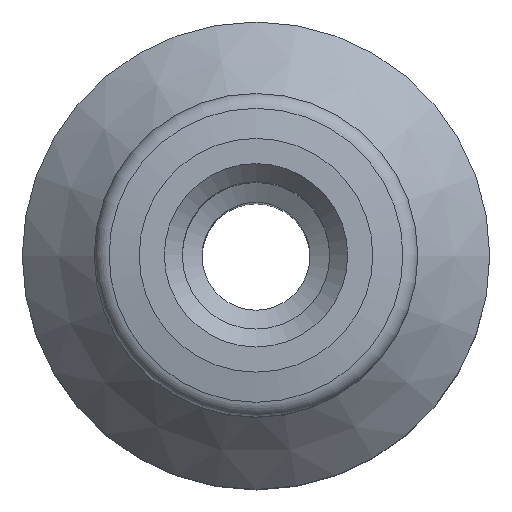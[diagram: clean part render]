
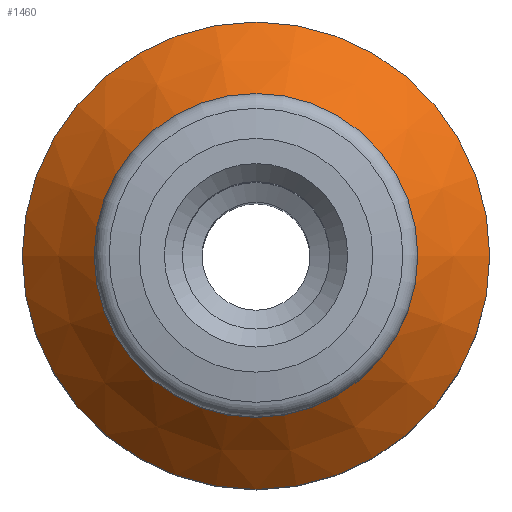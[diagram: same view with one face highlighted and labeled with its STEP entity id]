
A CAD part, top view. The second image highlights one B-rep face of the part: STEP entity #1460.
In plain terms, the highlighted conical face has half-angle 45 degrees and reference radius 6.5 mm.
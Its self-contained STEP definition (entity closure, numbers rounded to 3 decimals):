
#1460=ADVANCED_FACE('', (#1470,#1480), #1490, .T.);
#4430=AXIS2_PLACEMENT_3D('Ax2Pl3d', #4440, #4450, #4460);
#4470=AXIS2_PLACEMENT_3D('Ax2Pl3d', #4480, #4490, #4500);
#4510=AXIS2_PLACEMENT_3D('Ax2Pl3d', #4520, #4530, #4540);
#4440=CARTESIAN_POINT('HicPkt', (10.6,11.03,
36.133));
#5080=CARTESIAN_POINT('', (17.1,11.03,36.133));
#4480=CARTESIAN_POINT('HicPkt', (10.6,11.03,
36.133));
#4520=CARTESIAN_POINT('HicPkt', (10.6,11.03,
38.133));
#5090=CARTESIAN_POINT('', (15.1,11.03,38.133));
#5450=CIRCLE('Circle', #4430, 6.5);
#5460=CIRCLE('Circle', #4510, 4.5);
#1490=CONICAL_SURFACE('Kegel', #4470, 6.5, 0.785);
#4450=DIRECTION('Axis', (0.,0.,-1.));
#4460=DIRECTION('RefDirection', (-1.,-0.,0.));
#4490=DIRECTION('Axis', (0.,0.,-1.));
#4500=DIRECTION('RefDirection', (-1.,-0.,0.));
#4530=DIRECTION('Axis', (0.,0.,-1.));
#4540=DIRECTION('RefDirection', (-1.,-0.,0.));
#7370=EDGE_CURVE('', #7380, #7380, #5450, .T.);
#7390=EDGE_CURVE('', #7400, #7400, #5460, .T.);
#8790=EDGE_LOOP('Edge_loop', (#8800));
#8810=EDGE_LOOP('Edge_loop', (#8820));
#1480=FACE_BOUND('', #8810, .T.);
#1470=FACE_OUTER_BOUND('Face_outer_bound', #8790, .T.);
#8800=ORIENTED_EDGE('', *, *, #7370, .F.);
#8820=ORIENTED_EDGE('', *, *, #7390, .T.);
#7380=VERTEX_POINT('', #5080);
#7400=VERTEX_POINT('', #5090);
